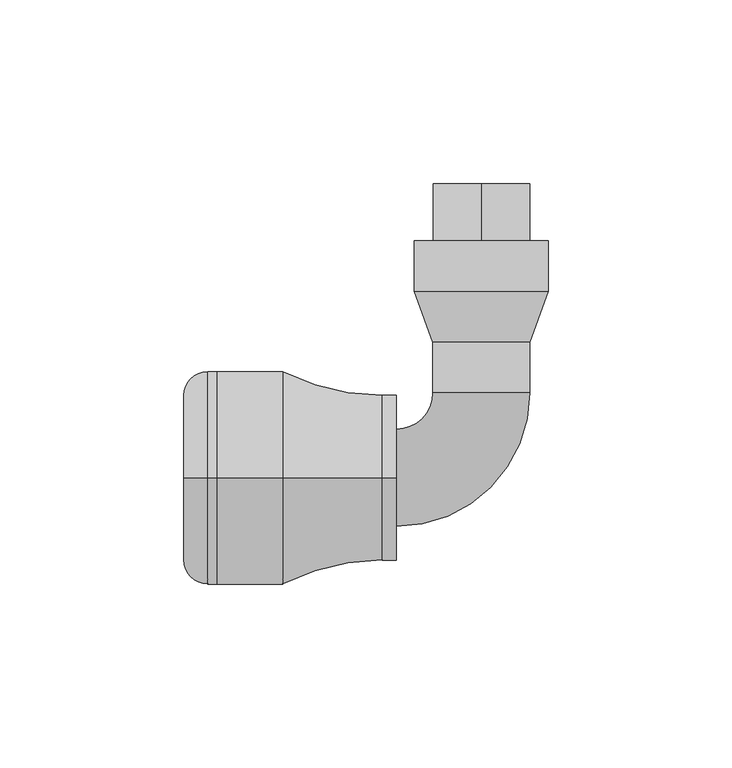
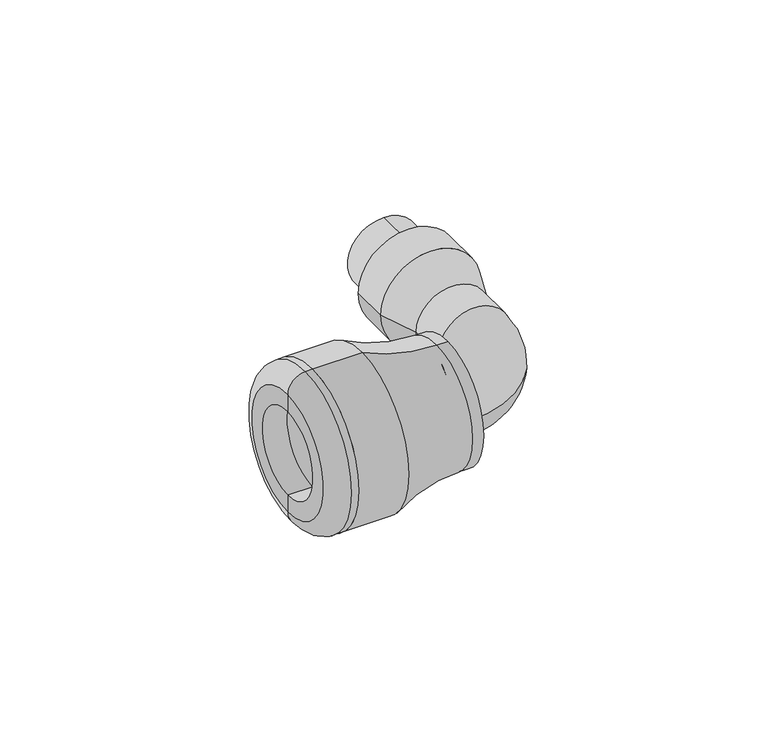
"""IFC4 building model written with IfcOpenShell, lengths in millimetres: pipe fitting geometry, Plumbing_Pipe-Fittings_Plasson_Elbow-90-with-Threaded-Brass-Male-Offtake_1077 : Plumbing_Pipe-Fittings_Plasson_Elbow-90-with-Threaded-Brass-Male-Offtake_1077."""

from ifc_helpers import new_model, si_unit, point, frame, origin, place, context, project, spatial, polyline, circle_curve, ellipse_curve, trimmed, source, transform, mapped, element, save
from ifc_brep_helpers import plane_surface, cylinder_surface, revolved_surface, advanced_brep


def pipe_fitting_6a8e1b83(model_context):
    return source(origin(), model_context, "Body", "AdvancedBrep", [
        advanced_brep(
        [(0.0, 80.0, -9.1), (0.0, 80.0, 9.1), (0.0, 64.5, 9.1), (0.0, 64.5, -9.1), (0.0, 80.0, -13.2), (0.0, 80.0, 13.2), (0.0, 64.5, -13.2), (0.0, 64.5, 13.2)],
        [
            (0, 1, circle_curve(frame((0.0, 80.0, 0.0), z_axis=(0.0, 1.0, 0.0), x_axis=(0.0, 0.0, 1.0)), 9.1)),
            (1, 2),
            (2, 3, circle_curve(frame((0.0, 64.5, 0.0), z_axis=(0.0, -1.0, 0.0), x_axis=(0.0, 0.0, 1.0)), 9.1)),
            (3, 0),
            (1, 0, circle_curve(frame((0.0, 80.0, 0.0), z_axis=(0.0, 1.0, 0.0), x_axis=(0.0, 0.0, 1.0)), 9.1)),
            (3, 2, circle_curve(frame((0.0, 64.5, 0.0), z_axis=(0.0, -1.0, 0.0), x_axis=(0.0, 0.0, 1.0)), 9.1)),
            (4, 5, circle_curve(frame((0.0, 80.0, 0.0), z_axis=(0.0, 1.0, 0.0), x_axis=(0.0, 0.0, 1.0)), 13.2)),
            (5, 1),
            (0, 4),
            (5, 4, circle_curve(frame((0.0, 80.0, 0.0), z_axis=(0.0, 1.0, 0.0), x_axis=(0.0, 0.0, 1.0)), 13.2)),
            (6, 7, circle_curve(frame((0.0, 64.5, 0.0), z_axis=(0.0, 1.0, 0.0), x_axis=(0.0, 0.0, 1.0)), 13.2)),
            (7, 5),
            (4, 6),
            (7, 6, circle_curve(frame((0.0, 64.5, 0.0), z_axis=(0.0, 1.0, 0.0), x_axis=(0.0, 0.0, 1.0)), 13.2)),
            (2, 7),
            (6, 3),
        ],
        [
            revolved_surface(polyline([(0.0, 64.5, 9.1), (0.0, 80.0, 9.1)]), (0.0, 70.3333333, 0.0), (0.0, -1.0, 0.0)),
            plane_surface(frame((0.0, 80.0, 0.0), z_axis=(0.0, 1.0, 0.0), x_axis=(0.0, 0.0, 1.0))),
            cylinder_surface(frame((0.0, 70.3333333, 0.0), z_axis=(0.0, -1.0, 0.0), x_axis=(0.0, 0.0, 1.0)), 13.2),
            plane_surface(frame((0.0, 64.5, 0.0), z_axis=(0.0, -1.0, 0.0), x_axis=(0.0, 0.0, 1.0))),
        ],
        [
            (0, [[1, 2, 3, 4]]),
            (0, [[5, -4, 6, -2]]),
            (1, [[7, 8, -1, 9]]),
            (1, [[10, -9, -5, -8]]),
            (2, [[11, 12, -7, 13]]),
            (2, [[14, -13, -10, -12]]),
            (3, [[-3, 15, -11, 16]]),
            (3, [[-6, -16, -14, -15]]),
        ],
    ),
        advanced_brep(
        [(-23.1, -13.2, 0.0), (-23.1, 13.2, 0.0), (13.2, 23.1, 0.0), (-13.2, 23.1, 0.0)],
        [
            (0, 1, circle_curve(frame((-23.1, 0.0, 0.0), z_axis=(-1.0, 0.0, 0.0), x_axis=(0.0, 1.0, 0.0)), 13.2)),
            (1, 0, circle_curve(frame((-23.1, 0.0, 0.0), z_axis=(-1.0, 0.0, 0.0), x_axis=(0.0, 1.0, 0.0)), 13.2)),
            (2, 3, circle_curve(frame((0.0, 23.1, 0.0), z_axis=(0.0, 1.0, 0.0), x_axis=(-1.0, 0.0, 0.0)), 13.2)),
            (3, 2, circle_curve(frame((0.0, 23.1, 0.0), z_axis=(0.0, 1.0, 0.0), x_axis=(-1.0, 0.0, 0.0)), 13.2)),
            (3, 1, circle_curve(frame((-23.1, 23.1, 0.0), z_axis=(0.0, 0.0, -1.0), x_axis=(0.0, -1.0, 0.0)), 9.9)),
            (0, 2, circle_curve(frame((-23.1, 23.1, 0.0), z_axis=(0.0, 0.0, 1.0), x_axis=(0.0, -1.0, 0.0)), 36.3)),
        ],
        [
            plane_surface(frame((-23.1, 0.0, 0.0), z_axis=(-1.0, 0.0, 0.0), x_axis=(0.0, 0.0, 1.0))),
            plane_surface(frame((0.0, 23.1, 0.0), z_axis=(0.0, 1.0, 0.0), x_axis=(0.0, 0.0, 1.0))),
            revolved_surface(trimmed(ellipse_curve(frame((-23.1, 0.0, 0.0), z_axis=(-1.0, 0.0, 0.0), x_axis=(0.0, 1.0, 0.0)), 13.2, 13.2), [point((-23.1, -13.2, 0.0))], [point((-23.1, 13.2, 0.0))], True, "CARTESIAN"), (-23.1, 23.1, 0.0), (0.0, 0.0, 1.0)),
            revolved_surface(trimmed(ellipse_curve(frame((-23.1, 0.0, 0.0), z_axis=(-1.0, 0.0, 0.0), x_axis=(0.0, 1.0, 0.0)), 13.2, 13.2), [point((-23.1, 13.2, 0.0))], [point((-23.1, -13.2, 0.0))], True, "CARTESIAN"), (-23.1, 23.1, 0.0), (0.0, 0.0, 1.0)),
        ],
        [
            (0, [[1, 2]]),
            (1, [[3, 4]]),
            (2, [[5, -1, 6, -4]]),
            (3, [[-6, -2, -5, -3]]),
        ],
    ),
        advanced_brep(
        [(18.2, 50.7, 0.0), (-18.2, 50.7, 0.0), (-18.2, 64.5, 0.0), (18.2, 64.5, 0.0), (0.0, 64.5, 0.0), (0.0, 23.1, 0.0), (-13.2, 23.1, 0.0), (13.2, 23.1, 0.0), (-13.2, 36.9, 0.0), (13.2, 36.9, 0.0)],
        [
            (0, 1, circle_curve(frame((0.0, 50.7, 0.0), z_axis=(0.0, 1.0, 0.0), x_axis=(-1.0, 0.0, 0.0)), 18.2)),
            (1, 2),
            (2, 3, circle_curve(frame((0.0, 64.5, 0.0), z_axis=(0.0, -1.0, 0.0), x_axis=(-1.0, 0.0, 0.0)), 18.2)),
            (3, 0),
            (1, 0, circle_curve(frame((0.0, 50.7, 0.0), z_axis=(0.0, 1.0, 0.0), x_axis=(-1.0, 0.0, 0.0)), 18.2)),
            (3, 2, circle_curve(frame((0.0, 64.5, 0.0), z_axis=(0.0, -1.0, 0.0), x_axis=(-1.0, 0.0, 0.0)), 18.2)),
            (2, 4),
            (4, 3),
            (5, 6),
            (6, 7, circle_curve(frame((0.0, 23.1, 0.0), z_axis=(0.0, -1.0, 0.0), x_axis=(-1.0, 0.0, 0.0)), 13.2)),
            (7, 5),
            (7, 6, circle_curve(frame((0.0, 23.1, 0.0), z_axis=(0.0, -1.0, 0.0), x_axis=(-1.0, 0.0, 0.0)), 13.2)),
            (6, 8),
            (8, 9, circle_curve(frame((0.0, 36.9, 0.0), z_axis=(0.0, -1.0, 0.0), x_axis=(-1.0, 0.0, 0.0)), 13.2)),
            (9, 7),
            (9, 8, circle_curve(frame((0.0, 36.9, 0.0), z_axis=(0.0, -1.0, 0.0), x_axis=(-1.0, 0.0, 0.0)), 13.2)),
            (8, 1),
            (0, 9),
        ],
        [
            cylinder_surface(frame((0.0, 34.8135311, 0.0), z_axis=(0.0, -1.0, 0.0), x_axis=(-1.0, 0.0, 0.0)), 18.2),
            plane_surface(frame((0.0, 64.5, 0.0), z_axis=(0.0, 1.0, 0.0), x_axis=(-1.0, 0.0, 0.0))),
            plane_surface(frame((0.0, 23.1, 0.0), z_axis=(0.0, -1.0, 0.0), x_axis=(-1.0, 0.0, 0.0))),
            cylinder_surface(frame((0.0, 34.8135311, 0.0), z_axis=(0.0, -1.0, 0.0), x_axis=(-1.0, 0.0, 0.0)), 13.2),
            revolved_surface(polyline([(-18.2, 50.7, 0.0), (-13.2, 36.9, 0.0)]), (0.0, 34.8135311, 0.0), (0.0, -1.0, 0.0)),
        ],
        [
            (0, [[1, 2, 3, 4]]),
            (0, [[5, -4, 6, -2]]),
            (1, [[-3, 7, 8]]),
            (1, [[-6, -8, -7]]),
            (2, [[9, 10, 11]]),
            (2, [[-11, 12, -9]]),
            (3, [[-10, 13, 14, 15]]),
            (3, [[-12, -15, 16, -13]]),
            (4, [[-14, 17, -1, 18]]),
            (4, [[-16, -18, -5, -17]]),
        ],
    ),
        advanced_brep(
        [(-72.0, 0.0, -29.0), (-72.0, 0.0, 29.0), (-72.0, 0.0, 16.0), (-72.0, 0.0, -16.0), (-74.5, 0.0, -29.0), (-74.5, 0.0, 29.0), (-81.0, 0.0, -22.5), (-81.0, 0.0, 22.5), (-81.0, 0.0, -16.0), (-81.0, 0.0, 16.0)],
        [
            (0, 1, circle_curve(frame((-72.0, 0.0, 0.0), z_axis=(1.0, 0.0, 0.0), x_axis=(0.0, 0.0, 1.0)), 29.0)),
            (1, 2),
            (2, 3, circle_curve(frame((-72.0, 0.0, 0.0), z_axis=(-1.0, 0.0, 0.0), x_axis=(0.0, 0.0, 1.0)), 16.0)),
            (3, 0),
            (1, 0, circle_curve(frame((-72.0, 0.0, 0.0), z_axis=(1.0, 0.0, 0.0), x_axis=(0.0, 0.0, 1.0)), 29.0)),
            (3, 2, circle_curve(frame((-72.0, 0.0, 0.0), z_axis=(-1.0, 0.0, 0.0), x_axis=(0.0, 0.0, 1.0)), 16.0)),
            (4, 5, circle_curve(frame((-74.5, 0.0, 0.0), z_axis=(1.0, 0.0, 0.0), x_axis=(0.0, 0.0, 1.0)), 29.0)),
            (5, 1),
            (0, 4),
            (5, 4, circle_curve(frame((-74.5, 0.0, 0.0), z_axis=(1.0, 0.0, 0.0), x_axis=(0.0, 0.0, 1.0)), 29.0)),
            (6, 7, circle_curve(frame((-81.0, 0.0, 0.0), z_axis=(1.0, 0.0, 0.0), x_axis=(0.0, 0.0, 1.0)), 22.5)),
            (7, 5, circle_curve(frame((-74.5, 0.0, 22.5), z_axis=(0.0, 1.0, 0.0), x_axis=(1.0, 0.0, 0.0)), 6.5)),
            (4, 6, circle_curve(frame((-74.5, 0.0, -22.5), z_axis=(0.0, 1.0, 0.0), x_axis=(1.0, 0.0, 0.0)), 6.5)),
            (7, 6, circle_curve(frame((-81.0, 0.0, 0.0), z_axis=(1.0, 0.0, 0.0), x_axis=(0.0, 0.0, 1.0)), 22.5)),
            (8, 9, circle_curve(frame((-81.0, 0.0, 0.0), z_axis=(1.0, 0.0, 0.0), x_axis=(0.0, 0.0, 1.0)), 16.0)),
            (9, 7),
            (6, 8),
            (9, 8, circle_curve(frame((-81.0, 0.0, 0.0), z_axis=(1.0, 0.0, 0.0), x_axis=(0.0, 0.0, 1.0)), 16.0)),
            (2, 9),
            (8, 3),
        ],
        [
            plane_surface(frame((-72.0, 0.0, 0.0), z_axis=(1.0, 0.0, 0.0), x_axis=(0.0, 0.0, 1.0))),
            cylinder_surface(frame((-86.0, 0.0, 0.0), z_axis=(-1.0, 0.0, 0.0), x_axis=(0.0, 0.0, 1.0)), 29.0),
            revolved_surface(trimmed(ellipse_curve(frame((-74.5, 0.0, 22.5), z_axis=(0.0, -1.0, 0.0), x_axis=(1.0, 0.0, 0.0)), 6.5, 6.5), [point((-74.5, 0.0, 29.0))], [point((-81.0, 0.0, 22.5))], True, "CARTESIAN"), (-86.0, 0.0, 0.0), (-1.0, 0.0, 0.0)),
            plane_surface(frame((-81.0, 0.0, 0.0), z_axis=(-1.0, 0.0, 0.0), x_axis=(0.0, 0.0, 1.0))),
            revolved_surface(polyline([(-81.0, 0.0, 16.0), (-72.0, 0.0, 16.0)]), (-86.0, 0.0, 0.0), (-1.0, 0.0, 0.0)),
        ],
        [
            (0, [[1, 2, 3, 4]]),
            (0, [[5, -4, 6, -2]]),
            (1, [[7, 8, -1, 9]]),
            (1, [[10, -9, -5, -8]]),
            (2, [[11, 12, -7, 13]]),
            (2, [[14, -13, -10, -12]]),
            (3, [[15, 16, -11, 17]]),
            (3, [[18, -17, -14, -16]]),
            (4, [[-3, 19, -15, 20]]),
            (4, [[-6, -20, -18, -19]]),
        ],
    ),
        advanced_brep(
        [(-72.0, 0.0, -16.0), (-72.0, 0.0, 16.0), (-72.0, 0.0, 29.0), (-72.0, 0.0, -29.0), (-27.0, 0.0, -16.0), (-27.0, 0.0, 16.0), (-27.0, 0.0, 0.0), (-54.0, 0.0, 29.0), (-54.0, 0.0, -29.0), (-23.1, 0.0, -22.5), (-23.1, 0.0, 22.5), (-23.1, 0.0, 0.0), (-27.0, 0.0, -22.5), (-27.0, 0.0, 22.5)],
        [
            (0, 1, circle_curve(frame((-72.0, 0.0, 0.0), z_axis=(1.0, 0.0, 0.0), x_axis=(0.0, 0.0, 1.0)), 16.0)),
            (1, 2),
            (2, 3, circle_curve(frame((-72.0, 0.0, 0.0), z_axis=(-1.0, 0.0, 0.0), x_axis=(0.0, 0.0, 1.0)), 29.0)),
            (3, 0),
            (1, 0, circle_curve(frame((-72.0, 0.0, 0.0), z_axis=(1.0, 0.0, 0.0), x_axis=(0.0, 0.0, 1.0)), 16.0)),
            (3, 2, circle_curve(frame((-72.0, 0.0, 0.0), z_axis=(-1.0, 0.0, 0.0), x_axis=(0.0, 0.0, 1.0)), 29.0)),
            (4, 5, circle_curve(frame((-27.0, 0.0, 0.0), z_axis=(1.0, 0.0, 0.0), x_axis=(0.0, 0.0, 1.0)), 16.0)),
            (5, 1),
            (0, 4),
            (5, 4, circle_curve(frame((-27.0, 0.0, 0.0), z_axis=(1.0, 0.0, 0.0), x_axis=(0.0, 0.0, 1.0)), 16.0)),
            (6, 5),
            (4, 6),
            (2, 7),
            (7, 8, circle_curve(frame((-54.0, 0.0, 0.0), z_axis=(-1.0, 0.0, 0.0), x_axis=(0.0, 0.0, 1.0)), 29.0)),
            (8, 3),
            (8, 7, circle_curve(frame((-54.0, 0.0, 0.0), z_axis=(-1.0, 0.0, 0.0), x_axis=(0.0, 0.0, 1.0)), 29.0)),
            (9, 10, circle_curve(frame((-23.1, 0.0, 0.0), z_axis=(1.0, 0.0, 0.0), x_axis=(0.0, 0.0, 1.0)), 22.5)),
            (10, 11),
            (11, 9),
            (10, 9, circle_curve(frame((-23.1, 0.0, 0.0), z_axis=(1.0, 0.0, 0.0), x_axis=(0.0, 0.0, 1.0)), 22.5)),
            (12, 13, circle_curve(frame((-27.0, 0.0, 0.0), z_axis=(1.0, 0.0, 0.0), x_axis=(0.0, 0.0, 1.0)), 22.5)),
            (13, 10),
            (9, 12),
            (13, 12, circle_curve(frame((-27.0, 0.0, 0.0), z_axis=(1.0, 0.0, 0.0), x_axis=(0.0, 0.0, 1.0)), 22.5)),
            (7, 13, circle_curve(frame((-27.0, 0.0, 81.8269231), z_axis=(0.0, -1.0, 0.0), x_axis=(1.0, 0.0, 0.0)), 59.3269231)),
            (12, 8, circle_curve(frame((-27.0, 0.0, -81.8269231), z_axis=(0.0, -1.0, 0.0), x_axis=(1.0, 0.0, 0.0)), 59.3269231)),
        ],
        [
            plane_surface(frame((-72.0, 0.0, 0.0), z_axis=(-1.0, 0.0, 0.0), x_axis=(0.0, 0.0, 1.0))),
            revolved_surface(polyline([(-72.0, 0.0, 16.0), (-27.0, 0.0, 16.0)]), (-72.0, 0.0, 0.0), (-1.0, 0.0, 0.0)),
            plane_surface(frame((-27.0, 0.0, 0.0), z_axis=(-1.0, 0.0, 0.0), x_axis=(0.0, 0.0, 1.0))),
            cylinder_surface(frame((-72.0, 0.0, 0.0), z_axis=(-1.0, 0.0, 0.0), x_axis=(0.0, 0.0, 1.0)), 29.0),
            plane_surface(frame((-23.1, 0.0, 0.0), z_axis=(1.0, 0.0, 0.0), x_axis=(0.0, 0.0, 1.0))),
            cylinder_surface(frame((-72.0, 0.0, 0.0), z_axis=(-1.0, 0.0, 0.0), x_axis=(0.0, 0.0, 1.0)), 22.5),
            revolved_surface(trimmed(ellipse_curve(frame((-27.0, 0.0, 81.8269231), z_axis=(0.0, 1.0, 0.0), x_axis=(1.0, 0.0, 0.0)), 59.3269231, 59.3269231), [point((-27.0, 0.0, 22.5))], [point((-54.0, 0.0, 29.0))], True, "CARTESIAN"), (-72.0, 0.0, 0.0), (-1.0, 0.0, 0.0)),
        ],
        [
            (0, [[1, 2, 3, 4]]),
            (0, [[5, -4, 6, -2]]),
            (1, [[7, 8, -1, 9]]),
            (1, [[10, -9, -5, -8]]),
            (2, [[11, -7, 12]]),
            (2, [[-12, -10, -11]]),
            (3, [[-3, 13, 14, 15]]),
            (3, [[-6, -15, 16, -13]]),
            (4, [[17, 18, 19]]),
            (4, [[20, -19, -18]]),
            (5, [[21, 22, -17, 23]]),
            (5, [[24, -23, -20, -22]]),
            (6, [[-14, 25, -21, 26]]),
            (6, [[-16, -26, -24, -25]]),
        ],
    ),
    ])


if __name__ == "__main__":
    model = new_model("IFC4")
    model_context = context("Model", 3, world=origin())
    ifc_project = project(units=[si_unit("LENGTHUNIT", "METRE", prefix="MILLI")], contexts=[model_context])
    site = spatial("IfcSite", under=ifc_project)
    building = spatial("IfcBuilding", under=site)
    placement = place(None, origin())
    pipe_fitting_shape = pipe_fitting_6a8e1b83(model_context)
    element("IfcPipeFitting", 1, ObjectType="Plumbing_Pipe-Fittings_Plasson_Elbow-90-with-Threaded-Brass-Male-Offtake_1077 : Plumbing_Pipe-Fittings_Plasson_Elbow-90-with-Threaded-Brass-Male-Offtake_1077", at=placement, inside=building, context=model_context, shape_type="MappedRepresentation", body=[
        mapped(pipe_fitting_shape, transform((0.0, 0.0, 0.0), x_axis=(1.0, 0.0, 0.0), y_axis=(0.0, 1.0, 0.0), z_axis=(0.0, 0.0, 1.0))),
    ])
    save(model, "model.ifc")
